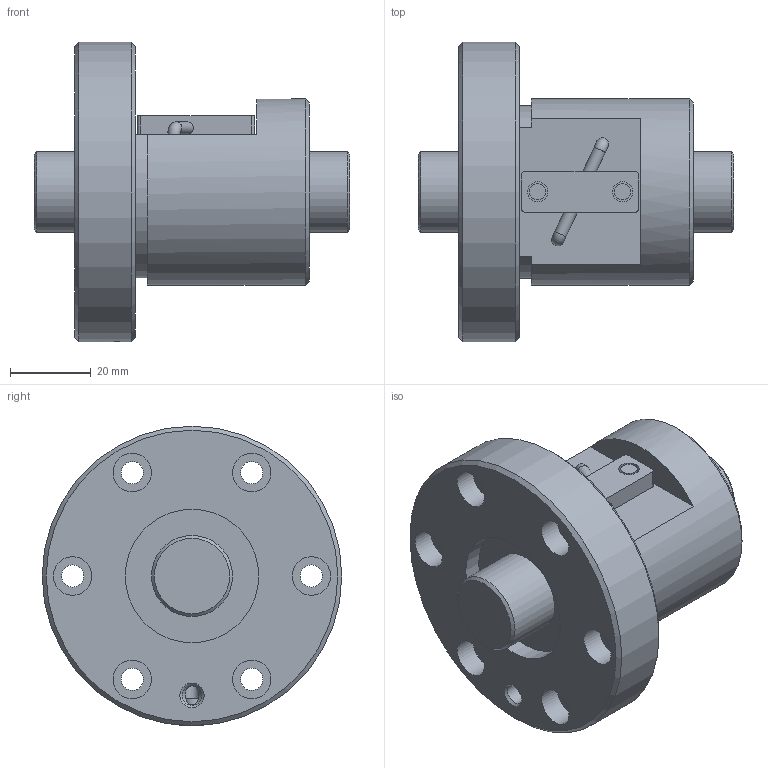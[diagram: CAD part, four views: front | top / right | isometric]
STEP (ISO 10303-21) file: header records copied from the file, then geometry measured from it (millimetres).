
FILE_DESCRIPTION(/* description */ ('STEP AP203'),/* implementation_level */ '2;1');
FILE_NAME(/* name */ 'BNF2010V-2.5RRG1+78LC0_000_rev',/* time_stamp */ '2024-08-06T07:28:45+02:00',/* author */ ('License CC BY-ND 4.0'),/* organization */ ('CADENAS'),/* preprocessor_version */ 'ST-DEVELOPER v19.3',/* originating_system */ 'PARTsolutions',/* authorisation */ ' ');
FILE_SCHEMA (('CONFIG_CONTROL_DESIGN'));
Length unit declared in the file: millimetre
Products named in the file (3): BNF2010V-2.5RRG1+78LC0_000_rev; BNF 2010A-1.5RR000 Shaft; BNF 2010A-1.5RR Nut
Assembly tree (2 placements, depth 2):
  BNF2010V-2.5RRG1+78LC0_000_rev
    BNF 2010A-1.5RR000 Shaft
    BNF 2010A-1.5RR Nut
Bounding box: 78 x 74 x 74 mm (x, y, z)
Volume: 127308.8 mm3; surface area: 30028.3 mm2
Topology: 2 solids, 2 shells, 69 faces, 148 edges, 96 vertices
Faces by surface type: cylinder 33, plane 27, cone 7, torus 2
Full cylindrical faces by diameter (mm): 3.065 x2, 3.75 x2, 4 x2, 4.917 x1, 5 x2, 5.5 x6, 9.5 x6, 20 x2, 33 x2, 46 x1, 74 x1
Entity records: 1757 total; most frequent: DIRECTION 312, CARTESIAN_POINT 298, ORIENTED_EDGE 200, AXIS2_PLACEMENT_3D 144, EDGE_LOOP 140, FACE_BOUND 140, EDGE_CURVE 100, VERTEX_POINT 86
